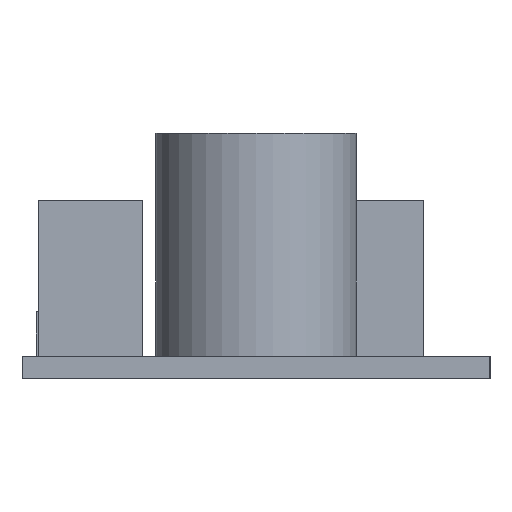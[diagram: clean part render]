
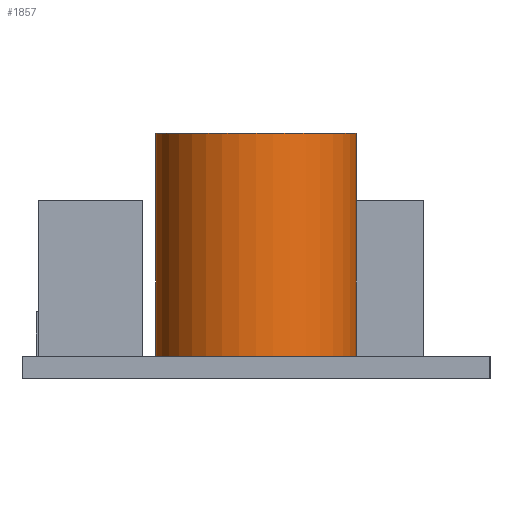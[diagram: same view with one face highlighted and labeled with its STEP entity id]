
A CAD part, left-side view. The second image highlights one B-rep face of the part: STEP entity #1857.
In plain terms, the highlighted cylindrical face has radius 4.5 mm (diameter 9 mm), a full revolution.
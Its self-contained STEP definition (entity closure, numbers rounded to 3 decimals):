
#1857 = ADVANCED_FACE('',(#1858),#1871,.T.);
#1858 = FACE_BOUND('',#1859,.T.);
#1859 = EDGE_LOOP('',(#1860,#1894,#1917,#1944));
#1860 = ORIENTED_EDGE('',*,*,#1861,.F.);
#1861 = EDGE_CURVE('',#1862,#1862,#1864,.T.);
#1862 = VERTEX_POINT('',#1863);
#1863 = CARTESIAN_POINT('',(4.5,0.,10.));
#1864 = SURFACE_CURVE('',#1865,(#1870,#1882),.PCURVE_S1.);
#1865 = CIRCLE('',#1866,4.5);
#1866 = AXIS2_PLACEMENT_3D('',#1867,#1868,#1869);
#1867 = CARTESIAN_POINT('',(0.,0.,10.));
#1868 = DIRECTION('',(0.,0.,1.));
#1869 = DIRECTION('',(1.,0.,-0.));
#1870 = PCURVE('',#1871,#1876);
#1871 = CYLINDRICAL_SURFACE('',#1872,4.5);
#1872 = AXIS2_PLACEMENT_3D('',#1873,#1874,#1875);
#1873 = CARTESIAN_POINT('',(0.,0.,0.));
#1874 = DIRECTION('',(0.,0.,1.));
#1875 = DIRECTION('',(1.,0.,-0.));
#1876 = DEFINITIONAL_REPRESENTATION('',(#1877),#1881);
#1877 = LINE('',#1878,#1879);
#1878 = CARTESIAN_POINT('',(0.,10.));
#1879 = VECTOR('',#1880,1.);
#1880 = DIRECTION('',(1.,0.));
#1881 = ( GEOMETRIC_REPRESENTATION_CONTEXT(2) 
PARAMETRIC_REPRESENTATION_CONTEXT() REPRESENTATION_CONTEXT('2D SPACE',''
  ) );
#1882 = PCURVE('',#1883,#1888);
#1883 = PLANE('',#1884);
#1884 = AXIS2_PLACEMENT_3D('',#1885,#1886,#1887);
#1885 = CARTESIAN_POINT('',(0.,0.,10.));
#1886 = DIRECTION('',(0.,0.,1.));
#1887 = DIRECTION('',(1.,0.,-0.));
#1888 = DEFINITIONAL_REPRESENTATION('',(#1889),#1893);
#1889 = CIRCLE('',#1890,4.5);
#1890 = AXIS2_PLACEMENT_2D('',#1891,#1892);
#1891 = CARTESIAN_POINT('',(0.,0.));
#1892 = DIRECTION('',(1.,0.));
#1893 = ( GEOMETRIC_REPRESENTATION_CONTEXT(2) 
PARAMETRIC_REPRESENTATION_CONTEXT() REPRESENTATION_CONTEXT('2D SPACE',''
  ) );
#1894 = ORIENTED_EDGE('',*,*,#1895,.F.);
#1895 = EDGE_CURVE('',#1896,#1862,#1898,.T.);
#1896 = VERTEX_POINT('',#1897);
#1897 = CARTESIAN_POINT('',(4.5,0.,0.));
#1898 = SEAM_CURVE('',#1899,(#1903,#1910),.PCURVE_S1.);
#1899 = LINE('',#1900,#1901);
#1900 = CARTESIAN_POINT('',(4.5,0.,0.));
#1901 = VECTOR('',#1902,1.);
#1902 = DIRECTION('',(0.,0.,1.));
#1903 = PCURVE('',#1871,#1904);
#1904 = DEFINITIONAL_REPRESENTATION('',(#1905),#1909);
#1905 = LINE('',#1906,#1907);
#1906 = CARTESIAN_POINT('',(6.283,-0.));
#1907 = VECTOR('',#1908,1.);
#1908 = DIRECTION('',(0.,1.));
#1909 = ( GEOMETRIC_REPRESENTATION_CONTEXT(2) 
PARAMETRIC_REPRESENTATION_CONTEXT() REPRESENTATION_CONTEXT('2D SPACE',''
  ) );
#1910 = PCURVE('',#1871,#1911);
#1911 = DEFINITIONAL_REPRESENTATION('',(#1912),#1916);
#1912 = LINE('',#1913,#1914);
#1913 = CARTESIAN_POINT('',(0.,-0.));
#1914 = VECTOR('',#1915,1.);
#1915 = DIRECTION('',(0.,1.));
#1916 = ( GEOMETRIC_REPRESENTATION_CONTEXT(2) 
PARAMETRIC_REPRESENTATION_CONTEXT() REPRESENTATION_CONTEXT('2D SPACE',''
  ) );
#1917 = ORIENTED_EDGE('',*,*,#1918,.T.);
#1918 = EDGE_CURVE('',#1896,#1896,#1919,.T.);
#1919 = SURFACE_CURVE('',#1920,(#1925,#1932),.PCURVE_S1.);
#1920 = CIRCLE('',#1921,4.5);
#1921 = AXIS2_PLACEMENT_3D('',#1922,#1923,#1924);
#1922 = CARTESIAN_POINT('',(0.,0.,0.));
#1923 = DIRECTION('',(0.,0.,1.));
#1924 = DIRECTION('',(1.,0.,-0.));
#1925 = PCURVE('',#1871,#1926);
#1926 = DEFINITIONAL_REPRESENTATION('',(#1927),#1931);
#1927 = LINE('',#1928,#1929);
#1928 = CARTESIAN_POINT('',(0.,0.));
#1929 = VECTOR('',#1930,1.);
#1930 = DIRECTION('',(1.,0.));
#1931 = ( GEOMETRIC_REPRESENTATION_CONTEXT(2) 
PARAMETRIC_REPRESENTATION_CONTEXT() REPRESENTATION_CONTEXT('2D SPACE',''
  ) );
#1932 = PCURVE('',#1933,#1938);
#1933 = PLANE('',#1934);
#1934 = AXIS2_PLACEMENT_3D('',#1935,#1936,#1937);
#1935 = CARTESIAN_POINT('',(0.,0.,0.));
#1936 = DIRECTION('',(0.,0.,1.));
#1937 = DIRECTION('',(1.,0.,-0.));
#1938 = DEFINITIONAL_REPRESENTATION('',(#1939),#1943);
#1939 = CIRCLE('',#1940,4.5);
#1940 = AXIS2_PLACEMENT_2D('',#1941,#1942);
#1941 = CARTESIAN_POINT('',(0.,0.));
#1942 = DIRECTION('',(1.,0.));
#1943 = ( GEOMETRIC_REPRESENTATION_CONTEXT(2) 
PARAMETRIC_REPRESENTATION_CONTEXT() REPRESENTATION_CONTEXT('2D SPACE',''
  ) );
#1944 = ORIENTED_EDGE('',*,*,#1895,.T.);
